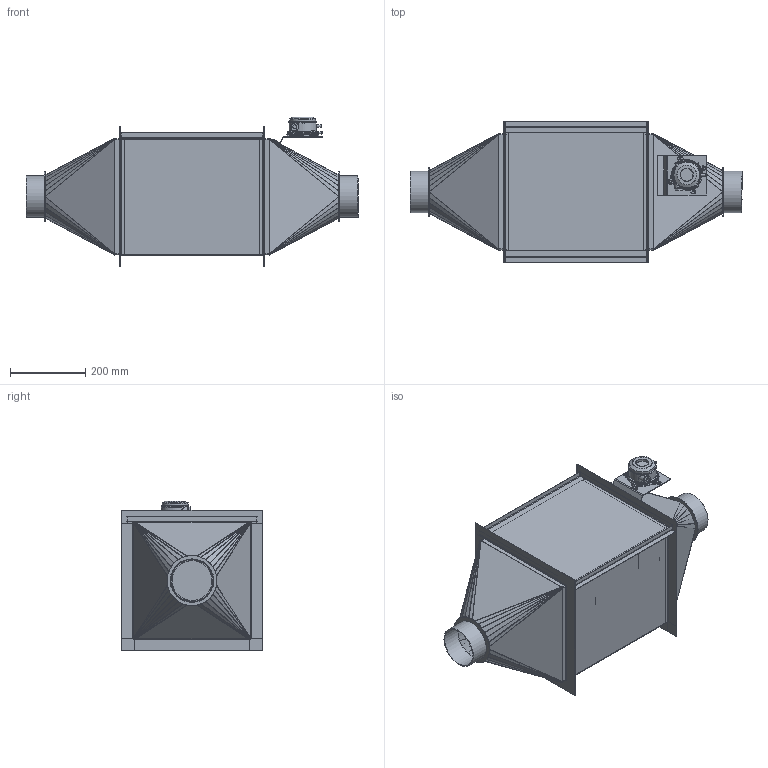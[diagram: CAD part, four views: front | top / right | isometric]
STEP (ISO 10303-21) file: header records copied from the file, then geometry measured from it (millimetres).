
FILE_DESCRIPTION(/* description */ (''),/* implementation_level */ '2;1');
FILE_NAME(/* name */ 'Q:\Potential Suppliers\Filter Housing_A110.stp',/* time_stamp */ '2023-06-30T10:34:35+02:00',/* author */ ('Ru'),/* organization */ (''),/* preprocessor_version */ 'ST-DEVELOPER v18.1',/* originating_system */ 'Autodesk Inventor 2022',/* authorisation */ '');
FILE_SCHEMA (('AUTOMOTIVE_DESIGN { 1 0 10303 214 3 1 1 }'));
Length unit declared in the file: millimetre
Products named in the file (11): Filter Housing; FilterGeh1; Trox_HEPA Filter Unit; MFP 305x305x78x50; Prefilter ePM10 55%; Standard Cell frames SCF 305x305x80; Funnel_Square; RO-110-50; Differential pressure switch for air including hose set DS-205F (S+S 
Regeltechnik); FilterGeh1_1; Support
Assembly tree (13 placements, depth 3):
  Filter Housing
    FilterGeh1
    Trox_HEPA Filter Unit
      MFP 305x305x78x50
      Standard Cell frames SCF 305x305x80  x2
      Prefilter ePM10 55%
    Funnel_Square  x2
    RO-110-50  x2
    Differential pressure switch for air including hose set DS-205F (S+S 
Regeltechnik)
    FilterGeh1_1
    Support
Bounding box: 880 x 373 x 397.45 mm (x, y, z)
Volume: 1726324 mm3; surface area: 3895739 mm2
Topology: 14 solids, 26 shells, 1312 faces, 3268 edges, 2018 vertices
Faces by surface type: plane 833, cylinder 344, bspline 112, cone 14, torus 9
Full cylindrical faces by diameter (mm): 2 x8, 2.5 x4, 3.5 x6, 4.2 x4, 6.2 x2, 10.5 x1, 18 x1, 18.5 x1, 21.5 x1, 33 x1, 35 x1, 65 x1, 67 x1, 69 x2, 72 x2, 74 x1, 78 x1, 78.2 x1, 105.4 x2, 110 x2, 112.5 x2, 132.5 x4
Entity records: 31151 total; most frequent: CARTESIAN_POINT 6427, DIRECTION 5062, ORIENTED_EDGE 5004, EDGE_CURVE 2502, LINE 1764, VECTOR 1764, AXIS2_PLACEMENT_3D 1649, VERTEX_POINT 1553
